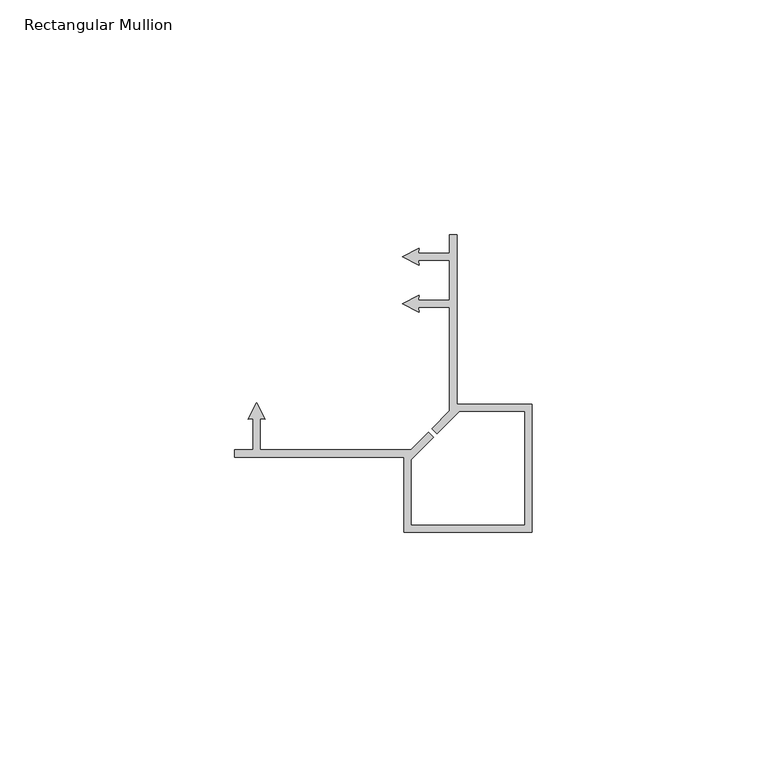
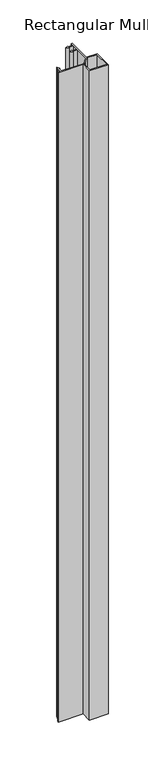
"""IFC4 building model written with IfcOpenShell, lengths in millimetres: member geometry, Rectangular Mullion : Renson_Linarte_LA-B16-03."""

from ifc_helpers import new_model, si_unit, frame, origin, place, context, project, spatial, polyline, outline, extrude, source, transform, mapped, element, save


def rectangular_mullion_f11ffd68(model_context):
    return source(origin(), model_context, "Body", "SweptSolid", [
        extrude(outline(polyline([(-27.25, -36.2101973), (-63.25, -36.2101973), (-63.25, -34.7101973), (-59.3141639, -34.7101973), (-59.3141639, -28.1130125), (-60.4298939, -28.2106263), (-58.6141573, -24.6470388), (-56.7984207, -28.2106263), (-57.9141638, -28.1130114), (-57.9141638, -34.7101973), (-25.7494136, -34.7101973), (-21.9971799, -30.9199269), (-20.9365063, -31.9806005), (-25.75, -36.8428891), (-25.75, -50.7101973), (-1.5, -50.7101973), (-1.5, -26.46), (-15.4713071, -26.46), (-20.2329654, -31.2699278), (-21.2936391, -30.2092541), (-17.5000001, -26.3771586), (-17.5000001, -4.2957531), (-24.0971848, -4.2957531), (-23.9995711, -5.4114831), (-27.5631585, -3.5957465), (-23.9995711, -1.7800099), (-24.097186, -2.8957529), (-17.5, -2.8957529), (-17.5, 5.704246), (-24.0971848, 5.704246), (-23.9995711, 4.5885161), (-27.5631585, 6.4042526), (-23.9995711, 8.2199892), (-24.097186, 7.1042462), (-17.5, 7.1042462), (-17.5, 11.04), (-16.0, 11.04), (-16.0, -24.96), (0.0, -24.96), (0.0, -52.2101973), (-27.25, -52.2101973), (-27.25, -36.2101973)])), frame((0.0, 0.0, -1000.0), z_axis=(0.0, 0.0, 1.0), x_axis=(1.0, 0.0, 0.0)), (0.0, 0.0, 1.0), 1000.0),
    ])


if __name__ == "__main__":
    model = new_model("IFC4")
    model_context = context("Model", 3, world=origin())
    ifc_project = project(units=[si_unit("LENGTHUNIT", "METRE", prefix="MILLI")], contexts=[model_context])
    site = spatial("IfcSite", under=ifc_project)
    building = spatial("IfcBuilding", under=site)
    placement = place(None, origin())
    rectangular_mullion_shape = rectangular_mullion_f11ffd68(model_context)
    element("IfcMember", 1, ObjectType="Rectangular Mullion : Renson_Linarte_LA-B16-03", at=placement, inside=building, context=model_context, shape_type="MappedRepresentation", body=[
        mapped(rectangular_mullion_shape, transform((0.0, 0.0, 0.0), x_axis=(1.0, 0.0, 0.0), y_axis=(0.0, 1.0, 0.0), z_axis=(0.0, 0.0, 1.0))),
    ])
    save(model, "model.ifc")
